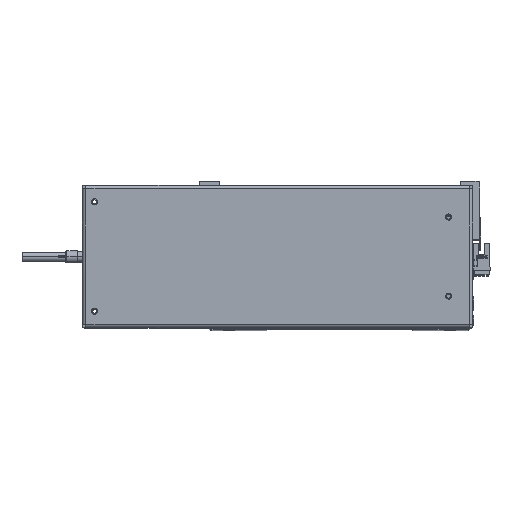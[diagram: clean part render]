
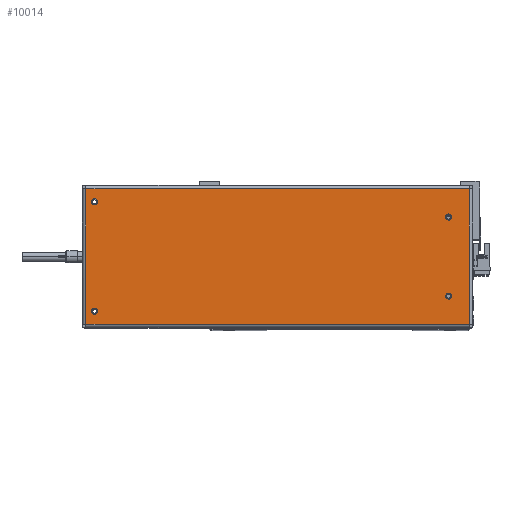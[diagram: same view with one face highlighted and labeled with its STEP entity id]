
A CAD part, top view. The second image highlights one B-rep face of the part: STEP entity #10014.
In plain terms, the highlighted planar face has unit normal (0, 0, 1).
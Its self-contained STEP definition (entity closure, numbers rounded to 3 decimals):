
#404 = VECTOR ( 'NONE', #27454, 1000. ) ;
#479 = VERTEX_POINT ( 'NONE', #14203 ) ;
#509 = CIRCLE ( 'NONE', #11725, 2.5 ) ;
#724 = DIRECTION ( 'NONE',  ( 0., 0., 1. ) ) ;
#963 = DIRECTION ( 'NONE',  ( 0., -1., 0. ) ) ;
#1288 = DIRECTION ( 'NONE',  ( -1., 0., 0. ) ) ;
#1746 = DIRECTION ( 'NONE',  ( 1., 0., 0. ) ) ;
#1961 = ORIENTED_EDGE ( 'NONE', *, *, #12990, .F. ) ;
#2279 = AXIS2_PLACEMENT_3D ( 'NONE', #27929, #37021, #13837 ) ;
#2461 = ORIENTED_EDGE ( 'NONE', *, *, #21438, .F. ) ;
#2716 = EDGE_CURVE ( 'NONE', #20023, #26506, #3545, .T. ) ;
#2719 = CARTESIAN_POINT ( 'NONE',  ( 157.6, -55.6, 0. ) ) ;
#2810 = EDGE_LOOP ( 'NONE', ( #21172, #12015 ) ) ;
#3422 = CARTESIAN_POINT ( 'NONE',  ( 157.7, 55.6, 0. ) ) ;
#3483 = CARTESIAN_POINT ( 'NONE',  ( -140.5, -32.5, 0. ) ) ;
#3545 = LINE ( 'NONE', #36546, #404 ) ;
#3948 = AXIS2_PLACEMENT_3D ( 'NONE', #12847, #24178, #15529 ) ;
#4244 = CARTESIAN_POINT ( 'NONE',  ( -157.6, 55.6, 0. ) ) ;
#4401 = AXIS2_PLACEMENT_3D ( 'NONE', #17345, #12104, #26950 ) ;
#4567 = CARTESIAN_POINT ( 'NONE',  ( 153., -45., 0. ) ) ;
#4833 = DIRECTION ( 'NONE',  ( 0., 0., 1. ) ) ;
#5158 = VECTOR ( 'NONE', #35345, 1000. ) ;
#5997 = VERTEX_POINT ( 'NONE', #16044 ) ;
#6394 = DIRECTION ( 'NONE',  ( 0., 0., 1. ) ) ;
#6980 = PLANE ( 'NONE',  #12616 ) ;
#7034 = ORIENTED_EDGE ( 'NONE', *, *, #31963, .T. ) ;
#8296 = CIRCLE ( 'NONE', #22087, 2.5 ) ;
#8460 = CARTESIAN_POINT ( 'NONE',  ( -157.6, 55.6, 0. ) ) ;
#8805 = VERTEX_POINT ( 'NONE', #29888 ) ;
#9362 = ORIENTED_EDGE ( 'NONE', *, *, #24954, .T. ) ;
#9884 = VERTEX_POINT ( 'NONE', #24518 ) ;
#10014 = ADVANCED_FACE ( 'NONE', ( #17513, #31188, #13428, #35751, #34830 ), #6980, .F. ) ;
#10219 = CIRCLE ( 'NONE', #31712, 2.5 ) ;
#10491 = DIRECTION ( 'NONE',  ( 0., 1., 0. ) ) ;
#11143 = LINE ( 'NONE', #4244, #15696 ) ;
#11553 = VERTEX_POINT ( 'NONE', #8460 ) ;
#11725 = AXIS2_PLACEMENT_3D ( 'NONE', #19136, #13542, #1746 ) ;
#12015 = ORIENTED_EDGE ( 'NONE', *, *, #14779, .F. ) ;
#12104 = DIRECTION ( 'NONE',  ( 0., 0., 1. ) ) ;
#12316 = CIRCLE ( 'NONE', #13051, 2.5 ) ;
#12616 = AXIS2_PLACEMENT_3D ( 'NONE', #27300, #27432, #1288 ) ;
#12847 = CARTESIAN_POINT ( 'NONE',  ( -140.5, -32.5, 0. ) ) ;
#12990 = EDGE_CURVE ( 'NONE', #15174, #17152, #509, .T. ) ;
#13051 = AXIS2_PLACEMENT_3D ( 'NONE', #17858, #724, #15047 ) ;
#13428 = FACE_BOUND ( 'NONE', #19906, .T. ) ;
#13475 = DIRECTION ( 'NONE',  ( 1., 0., 0. ) ) ;
#13542 = DIRECTION ( 'NONE',  ( 0., 0., 1. ) ) ;
#13596 = CARTESIAN_POINT ( 'NONE',  ( 150.5, -45., 0. ) ) ;
#13837 = DIRECTION ( 'NONE',  ( 1., 0., 0. ) ) ;
#14203 = CARTESIAN_POINT ( 'NONE',  ( 157.6, 55.6, 0. ) ) ;
#14641 = ORIENTED_EDGE ( 'NONE', *, *, #19363, .F. ) ;
#14779 = EDGE_CURVE ( 'NONE', #8805, #9884, #30909, .T. ) ;
#15047 = DIRECTION ( 'NONE',  ( 1., 0., 0. ) ) ;
#15174 = VERTEX_POINT ( 'NONE', #24100 ) ;
#15529 = DIRECTION ( 'NONE',  ( 1., 0., 0. ) ) ;
#15696 = VECTOR ( 'NONE', #963, 1000. ) ;
#15745 = DIRECTION ( 'NONE',  ( 1., 0., 0. ) ) ;
#16044 = CARTESIAN_POINT ( 'NONE',  ( 148., -45., 0. ) ) ;
#17055 = ORIENTED_EDGE ( 'NONE', *, *, #2716, .T. ) ;
#17152 = VERTEX_POINT ( 'NONE', #29606 ) ;
#17345 = CARTESIAN_POINT ( 'NONE',  ( -140.5, 32.5, 0. ) ) ;
#17513 = FACE_BOUND ( 'NONE', #31027, .T. ) ;
#17858 = CARTESIAN_POINT ( 'NONE',  ( 150.5, 45., 0. ) ) ;
#18423 = CARTESIAN_POINT ( 'NONE',  ( 150.5, -45., 0. ) ) ;
#18502 = CARTESIAN_POINT ( 'NONE',  ( -157.6, -55.6, 0. ) ) ;
#19136 = CARTESIAN_POINT ( 'NONE',  ( 150.5, 45., 0. ) ) ;
#19363 = EDGE_CURVE ( 'NONE', #22422, #5997, #36816, .T. ) ;
#19906 = EDGE_LOOP ( 'NONE', ( #14641, #26178 ) ) ;
#20023 = VERTEX_POINT ( 'NONE', #18502 ) ;
#21172 = ORIENTED_EDGE ( 'NONE', *, *, #36525, .F. ) ;
#21438 = EDGE_CURVE ( 'NONE', #21975, #32474, #10219, .T. ) ;
#21636 = EDGE_CURVE ( 'NONE', #32474, #21975, #35701, .T. ) ;
#21696 = EDGE_LOOP ( 'NONE', ( #1961, #33868 ) ) ;
#21944 = ORIENTED_EDGE ( 'NONE', *, *, #34364, .T. ) ;
#21975 = VERTEX_POINT ( 'NONE', #26182 ) ;
#22087 = AXIS2_PLACEMENT_3D ( 'NONE', #13596, #4833, #13475 ) ;
#22277 = VECTOR ( 'NONE', #10491, 1000. ) ;
#22422 = VERTEX_POINT ( 'NONE', #4567 ) ;
#24100 = CARTESIAN_POINT ( 'NONE',  ( 153., 45., 0. ) ) ;
#24178 = DIRECTION ( 'NONE',  ( 0., 0., 1. ) ) ;
#24389 = DIRECTION ( 'NONE',  ( 0., 0., 1. ) ) ;
#24518 = CARTESIAN_POINT ( 'NONE',  ( -138., 32.5, 0. ) ) ;
#24954 = EDGE_CURVE ( 'NONE', #11553, #20023, #11143, .T. ) ;
#25992 = CARTESIAN_POINT ( 'NONE',  ( -138., -32.5, 0. ) ) ;
#26178 = ORIENTED_EDGE ( 'NONE', *, *, #27469, .F. ) ;
#26182 = CARTESIAN_POINT ( 'NONE',  ( -143., -32.5, 0. ) ) ;
#26506 = VERTEX_POINT ( 'NONE', #2719 ) ;
#26950 = DIRECTION ( 'NONE',  ( 1., 0., 0. ) ) ;
#27017 = EDGE_CURVE ( 'NONE', #17152, #15174, #12316, .T. ) ;
#27300 = CARTESIAN_POINT ( 'NONE',  ( 157.7, 58.5, 0. ) ) ;
#27432 = DIRECTION ( 'NONE',  ( 0., 0., -1. ) ) ;
#27454 = DIRECTION ( 'NONE',  ( 1., 0., 0. ) ) ;
#27469 = EDGE_CURVE ( 'NONE', #5997, #22422, #8296, .T. ) ;
#27737 = CARTESIAN_POINT ( 'NONE',  ( 157.6, -55.6, 0. ) ) ;
#27929 = CARTESIAN_POINT ( 'NONE',  ( -140.5, 32.5, 0. ) ) ;
#28192 = CIRCLE ( 'NONE', #4401, 2.5 ) ;
#29276 = DIRECTION ( 'NONE',  ( 1., 0., 0. ) ) ;
#29606 = CARTESIAN_POINT ( 'NONE',  ( 148., 45., 0. ) ) ;
#29888 = CARTESIAN_POINT ( 'NONE',  ( -143., 32.5, 0. ) ) ;
#30192 = LINE ( 'NONE', #3422, #5158 ) ;
#30909 = CIRCLE ( 'NONE', #2279, 2.5 ) ;
#31027 = EDGE_LOOP ( 'NONE', ( #35958, #2461 ) ) ;
#31188 = FACE_BOUND ( 'NONE', #2810, .T. ) ;
#31712 = AXIS2_PLACEMENT_3D ( 'NONE', #3483, #6394, #29276 ) ;
#31963 = EDGE_CURVE ( 'NONE', #479, #11553, #30192, .T. ) ;
#32474 = VERTEX_POINT ( 'NONE', #25992 ) ;
#33868 = ORIENTED_EDGE ( 'NONE', *, *, #27017, .F. ) ;
#34119 = LINE ( 'NONE', #27737, #22277 ) ;
#34364 = EDGE_CURVE ( 'NONE', #26506, #479, #34119, .T. ) ;
#34830 = FACE_OUTER_BOUND ( 'NONE', #36428, .T. ) ;
#35345 = DIRECTION ( 'NONE',  ( -1., 0., 0. ) ) ;
#35701 = CIRCLE ( 'NONE', #3948, 2.5 ) ;
#35751 = FACE_BOUND ( 'NONE', #21696, .T. ) ;
#35958 = ORIENTED_EDGE ( 'NONE', *, *, #21636, .F. ) ;
#36264 = AXIS2_PLACEMENT_3D ( 'NONE', #18423, #24389, #15745 ) ;
#36428 = EDGE_LOOP ( 'NONE', ( #9362, #17055, #21944, #7034 ) ) ;
#36525 = EDGE_CURVE ( 'NONE', #9884, #8805, #28192, .T. ) ;
#36546 = CARTESIAN_POINT ( 'NONE',  ( -157.7, -55.6, 0. ) ) ;
#36816 = CIRCLE ( 'NONE', #36264, 2.5 ) ;
#37021 = DIRECTION ( 'NONE',  ( 0., 0., 1. ) ) ;
